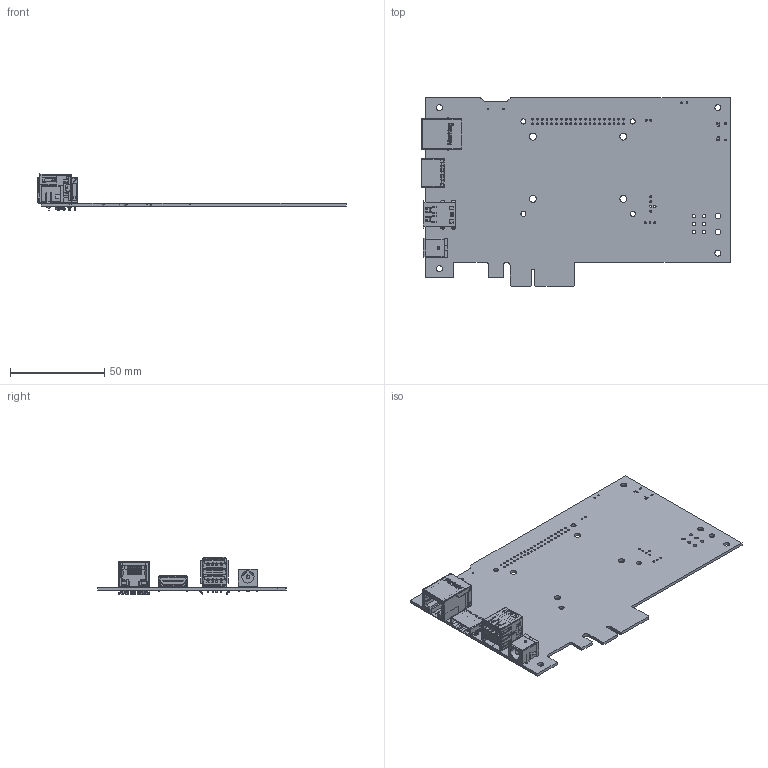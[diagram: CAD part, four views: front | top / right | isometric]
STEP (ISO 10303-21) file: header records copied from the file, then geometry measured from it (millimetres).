
FILE_DESCRIPTION(('FreeCAD Model'),'2;1');
FILE_NAME('E:/Jeff Geerling projekty/CM4_carrier_GPU/CM4GPU_Altium/Pi4GPU_v1_3D_model_20221129_reduced_connectors_2.step','2022-12-12T15:58:11',('Author'),(''), 'Open CASCADE STEP processor 6.8','FreeCAD','Unknown');
FILE_SCHEMA(('AUTOMOTIVE_DESIGN_CC2 { 1 2 10303 214 -1 1 5 4 }'));
Length unit declared in the file: millimetre
Products named in the file (21): ASSEMBLY; Open_CASCADE_STEP_translator_6.8_1.1.1; 685119134923_Housing; 61400826021_Pin006; 61400826021_Pin003; 61400826021_Shielding3; CUI_PJ-063AH001; CUI_PJ-063AH; CUI_PJ-063AH002; CUI_PJ-063AH003; 61400826021_Shielding1; 61400826021_Housing; 61400826021_Shielding2; 685119134923_Pin025; 685119134923_Pin029; Shielding; 685119134923_Shielding; Green_Yellow_LED001; Insulator_2; Insulator_1; Insulator_3
Assembly tree (44 placements, depth 2):
  ASSEMBLY
    Open_CASCADE_STEP_translator_6.8_1.1.1
    685119134923_Housing
    61400826021_Pin006  x4
    61400826021_Pin003  x4
    61400826021_Shielding3
    CUI_PJ-063AH001
    CUI_PJ-063AH
    CUI_PJ-063AH002
    CUI_PJ-063AH003
    61400826021_Shielding1
    61400826021_Housing
    61400826021_Shielding2
    685119134923_Pin025  x9
    685119134923_Pin029  x10
    Shielding
    685119134923_Shielding
    Green_Yellow_LED001  x2
    Insulator_2
    Insulator_1
    Insulator_3
Bounding box: 163.7 x 100 x 19.84 mm (x, y, z)
Volume: 27676.9 mm3; surface area: 46694.7 mm2
Topology: 44 solids, 44 shells, 3382 faces, 9461 edges, 6109 vertices
Faces by surface type: plane 2206, cylinder 1061, bspline 54, torus 30, extrusion 16, sphere 13, cone 2
Full cylindrical faces by diameter (mm): 0.65 x2, 0.9 x20, 1 x51, 1.02 x4, 1.25 x1, 1.6 x3, 1.8 x6, 2.3 x4, 2.7 x4, 3 x2, 3.2 x4, 3.3 x2, 3.7 x4
Entity records: 285378 total; most frequent: CARTESIAN_POINT 126591, DIRECTION 25026, VECTOR 15359, LINE 15343, ORIENTED_EDGE 15166, PCURVE 15150, DEFINITIONAL_REPRESENTATION 15150, EDGE_CURVE 7575
